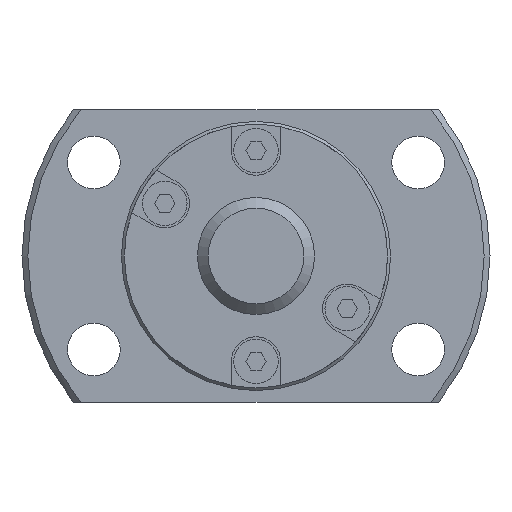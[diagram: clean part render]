
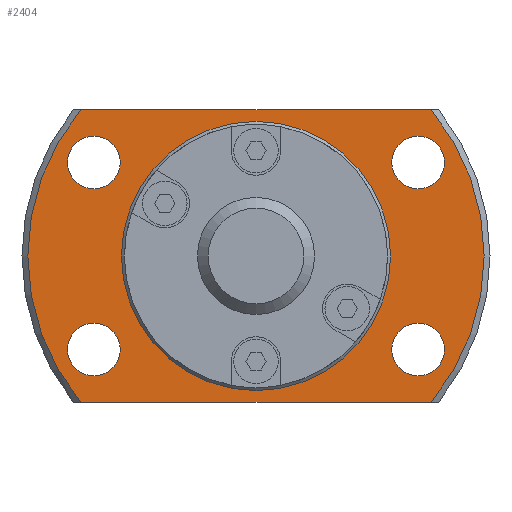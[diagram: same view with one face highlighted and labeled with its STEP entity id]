
A CAD part, left-side view. The second image highlights one B-rep face of the part: STEP entity #2404.
In plain terms, the highlighted planar face has unit normal (-1, 0, 0).
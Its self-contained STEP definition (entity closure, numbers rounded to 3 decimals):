
#134=LINE('',#3757,#360);
#135=LINE('',#3761,#361);
#360=VECTOR('',#3014,1000.);
#361=VECTOR('',#3017,1000.);
#672=ORIENTED_EDGE('',*,*,#1289,.F.);
#673=ORIENTED_EDGE('',*,*,#1290,.F.);
#674=ORIENTED_EDGE('',*,*,#1291,.F.);
#675=ORIENTED_EDGE('',*,*,#1292,.F.);
#676=ORIENTED_EDGE('',*,*,#1275,.F.);
#677=ORIENTED_EDGE('',*,*,#1293,.T.);
#678=ORIENTED_EDGE('',*,*,#1294,.F.);
#679=ORIENTED_EDGE('',*,*,#1295,.T.);
#680=ORIENTED_EDGE('',*,*,#1288,.T.);
#1275=EDGE_CURVE('',#1592,#1593,#1784,.T.);
#1288=EDGE_CURVE('',#1604,#1604,#1792,.T.);
#1289=EDGE_CURVE('',#1605,#1605,#1793,.F.);
#1290=EDGE_CURVE('',#1606,#1606,#1794,.F.);
#1291=EDGE_CURVE('',#1607,#1607,#1795,.F.);
#1292=EDGE_CURVE('',#1608,#1608,#1796,.F.);
#1293=EDGE_CURVE('',#1592,#1609,#134,.T.);
#1294=EDGE_CURVE('',#1610,#1609,#1797,.T.);
#1295=EDGE_CURVE('',#1610,#1593,#135,.T.);
#1592=VERTEX_POINT('',#3705);
#1593=VERTEX_POINT('',#3707);
#1604=VERTEX_POINT('',#3747);
#1605=VERTEX_POINT('',#3750);
#1606=VERTEX_POINT('',#3752);
#1607=VERTEX_POINT('',#3754);
#1608=VERTEX_POINT('',#3756);
#1609=VERTEX_POINT('',#3758);
#1610=VERTEX_POINT('',#3760);
#1784=CIRCLE('',#2610,19.5);
#1792=CIRCLE('',#2625,11.25);
#1793=CIRCLE('',#2627,2.25);
#1794=CIRCLE('',#2628,2.25);
#1795=CIRCLE('',#2629,2.25);
#1796=CIRCLE('',#2630,2.25);
#1797=CIRCLE('',#2631,19.5);
#1896=EDGE_LOOP('',(#672));
#1897=EDGE_LOOP('',(#673));
#1898=EDGE_LOOP('',(#674));
#1899=EDGE_LOOP('',(#675));
#1900=EDGE_LOOP('',(#676,#677,#678,#679));
#1901=EDGE_LOOP('',(#680));
#2108=FACE_BOUND('',#1896,.T.);
#2109=FACE_BOUND('',#1897,.T.);
#2110=FACE_BOUND('',#1898,.T.);
#2111=FACE_BOUND('',#1899,.T.);
#2112=FACE_BOUND('',#1900,.T.);
#2113=FACE_BOUND('',#1901,.T.);
#2281=PLANE('',#2626);
#2404=ADVANCED_FACE('',(#2108,#2109,#2110,#2111,#2112,#2113),#2281,.F.);
#2610=AXIS2_PLACEMENT_3D('',#3706,#2970,#2971);
#2625=AXIS2_PLACEMENT_3D('',#3746,#3002,#3003);
#2626=AXIS2_PLACEMENT_3D('',#3748,#3004,#3005);
#2627=AXIS2_PLACEMENT_3D('',#3749,#3006,#3007);
#2628=AXIS2_PLACEMENT_3D('',#3751,#3008,#3009);
#2629=AXIS2_PLACEMENT_3D('',#3753,#3010,#3011);
#2630=AXIS2_PLACEMENT_3D('',#3755,#3012,#3013);
#2631=AXIS2_PLACEMENT_3D('',#3759,#3015,#3016);
#2970=DIRECTION('',(1.,0.,0.));
#2971=DIRECTION('',(0.,0.,-1.));
#3002=DIRECTION('',(1.,0.,0.));
#3003=DIRECTION('',(0.,0.,-1.));
#3004=DIRECTION('',(1.,0.,0.));
#3005=DIRECTION('',(0.,0.,-1.));
#3006=DIRECTION('',(1.,0.,0.));
#3007=DIRECTION('',(0.,0.,-1.));
#3008=DIRECTION('',(1.,0.,0.));
#3009=DIRECTION('',(0.,0.,-1.));
#3010=DIRECTION('',(1.,0.,0.));
#3011=DIRECTION('',(0.,0.,-1.));
#3012=DIRECTION('',(1.,0.,0.));
#3013=DIRECTION('',(0.,0.,-1.));
#3014=DIRECTION('',(0.,-1.,0.));
#3015=DIRECTION('',(1.,0.,0.));
#3016=DIRECTION('',(0.,0.,-1.));
#3017=DIRECTION('',(0.,1.,0.));
#3705=CARTESIAN_POINT('',(22.,14.967,-12.5));
#3706=CARTESIAN_POINT('',(22.,0.,0.));
#3707=CARTESIAN_POINT('',(22.,14.967,12.5));
#3746=CARTESIAN_POINT('',(22.,0.,0.));
#3747=CARTESIAN_POINT('',(22.,0.,-11.25));
#3748=CARTESIAN_POINT('',(22.,11.25,0.));
#3749=CARTESIAN_POINT('',(22.,-13.856,-8.));
#3750=CARTESIAN_POINT('',(22.,-13.856,-10.25));
#3751=CARTESIAN_POINT('',(22.,-13.856,8.));
#3752=CARTESIAN_POINT('',(22.,-13.856,5.75));
#3753=CARTESIAN_POINT('',(22.,13.856,-8.));
#3754=CARTESIAN_POINT('',(22.,13.856,-10.25));
#3755=CARTESIAN_POINT('',(22.,13.856,8.));
#3756=CARTESIAN_POINT('',(22.,13.856,5.75));
#3757=CARTESIAN_POINT('',(22.,11.25,-12.5));
#3758=CARTESIAN_POINT('',(22.,-14.967,-12.5));
#3759=CARTESIAN_POINT('',(22.,0.,0.));
#3760=CARTESIAN_POINT('',(22.,-14.967,12.5));
#3761=CARTESIAN_POINT('',(22.,11.25,12.5));
